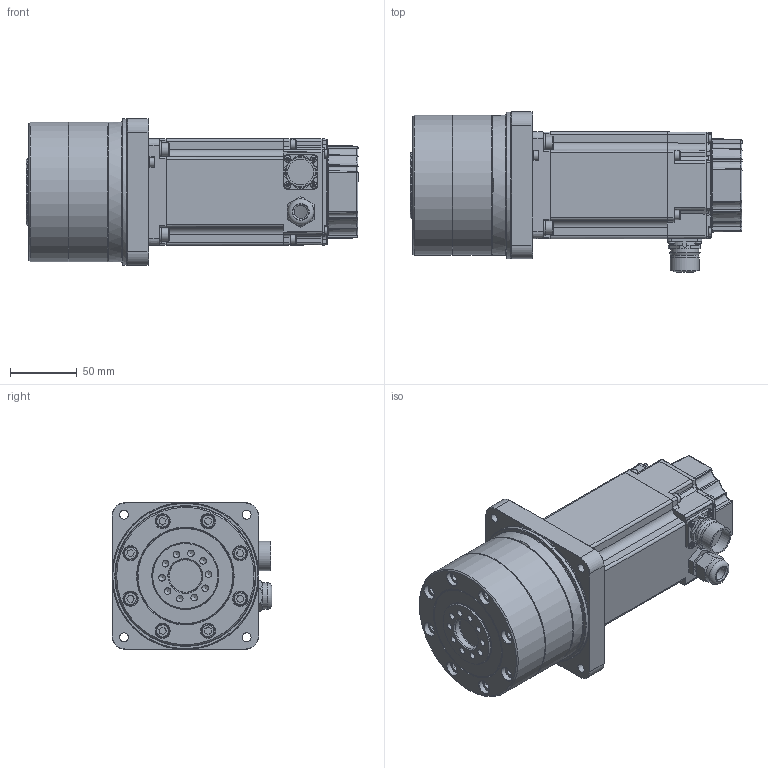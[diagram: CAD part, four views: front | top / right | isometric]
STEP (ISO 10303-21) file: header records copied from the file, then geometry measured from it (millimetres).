
FILE_DESCRIPTION(/* description */ (''),/* implementation_level */ '2;1');
FILE_NAME(/* name */ 'R:\01.Work\02.開発\計画図\AGV\eco_s\ECO_S(508&B40)_2021.02.stp',/* time_stamp */ '2021-02-26T08:16:23+09:00',/* author */ ('Sij_Takitani'),/* organization */ (''),/* preprocessor_version */ 'ST-DEVELOPER v18.1',/* originating_system */ 'Autodesk Inventor 2021',/* authorisation */ '');
FILE_SCHEMA (('AUTOMOTIVE_DESIGN { 1 0 10303 214 3 1 1 }'));
Products named in the file (5): ECO_S(508&B40)_2021.02; ECO_S 20200729; 009M006R018NG; 062W006----RG; COM0A200900_motore
Assembly tree (10 placements, depth 2):
  ECO_S(508&B40)_2021.02
    ECO_S 20200729
    009M006R018NG  x4
    062W006----RG  x4
    COM0A200900_motore
Bounding box: 249 x 120 x 110 mm (x, y, z)
Volume: 1597995 mm3; surface area: 151799.6 mm2
Topology: 10 solids, 13 shells, 1477 faces, 3741 edges, 2328 vertices
Faces by surface type: plane 572, cylinder 468, bspline 185, cone 145, torus 89, sphere 18
Full cylindrical faces by diameter (mm): 2 x1, 2.4 x4, 4.917 x14, 5 x4, 5.5 x4, 6 x4, 6.647 x4, 7 x8, 7.4 x1, 8 x1, 10 x14, 11 x9, 14.999 x1, 16.4 x1, 16.5 x1, 18 x1, 19 x1, 19.2 x1, 19.3 x1, 19.7 x1, 20 x1, 21 x1, 21.3 x1, 21.5 x1, 22 x1, 24 x1, 25 x1, 50 x1, 67.4 x2, 70 x3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
Entity records: 57228 total; most frequent: CARTESIAN_POINT 22741, ORIENTED_EDGE 7112, DIRECTION 6731, EDGE_CURVE 3556, AXIS2_PLACEMENT_3D 2544, VERTEX_POINT 2238, LINE 1643, VECTOR 1643
